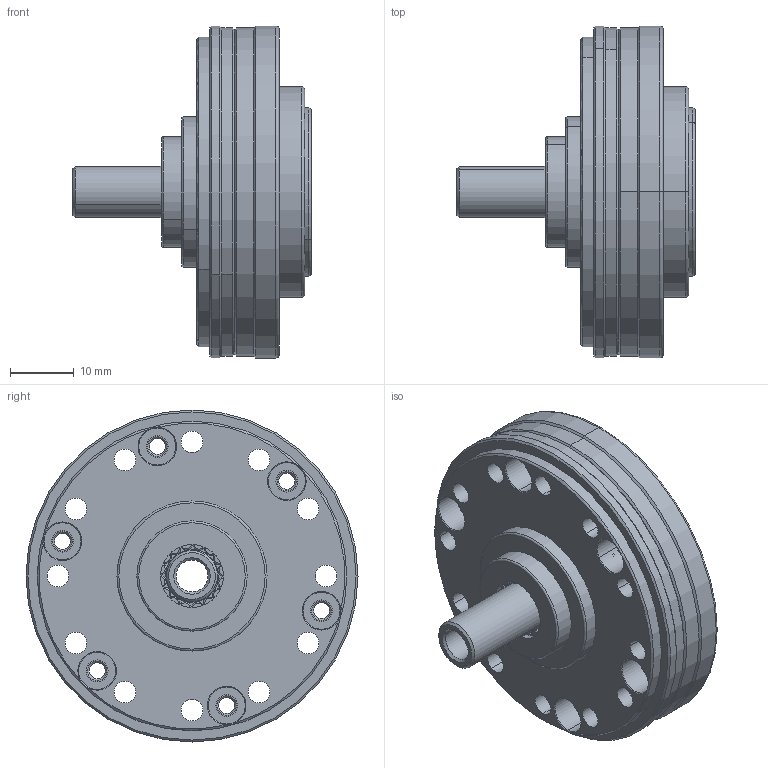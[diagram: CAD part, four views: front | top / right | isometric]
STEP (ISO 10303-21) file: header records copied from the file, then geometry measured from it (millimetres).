
FILE_DESCRIPTION (( 'STEP AP203' ), '1' );
FILE_NAME ('12（52）.ST', '2025-06-26T00:31:51', ( '' ), ( '' ), 'SwSTEP 2.0', 'SolidWorks 2024', '' );
FILE_SCHEMA (( 'CONFIG_CONTROL_DESIGN' ));
Length unit declared in the file: millimetre
Products named in the file (1): 12（52）
Bounding box: 37.3 x 52 x 52 mm (x, y, z)
Volume: 20186.6 mm3; surface area: 21352.5 mm2
Topology: 74 solids, 74 shells, 824 faces, 1721 edges, 1061 vertices
Faces by surface type: cylinder 320, plane 187, torus 158, cone 111, bspline 48
Entity records: 23669 total; most frequent: CARTESIAN_POINT 5600, DIRECTION 4159, ORIENTED_EDGE 3442, AXIS2_PLACEMENT_3D 1837, EDGE_CURVE 1721, VERTEX_POINT 1061, CIRCLE 1060, EDGE_LOOP 940
